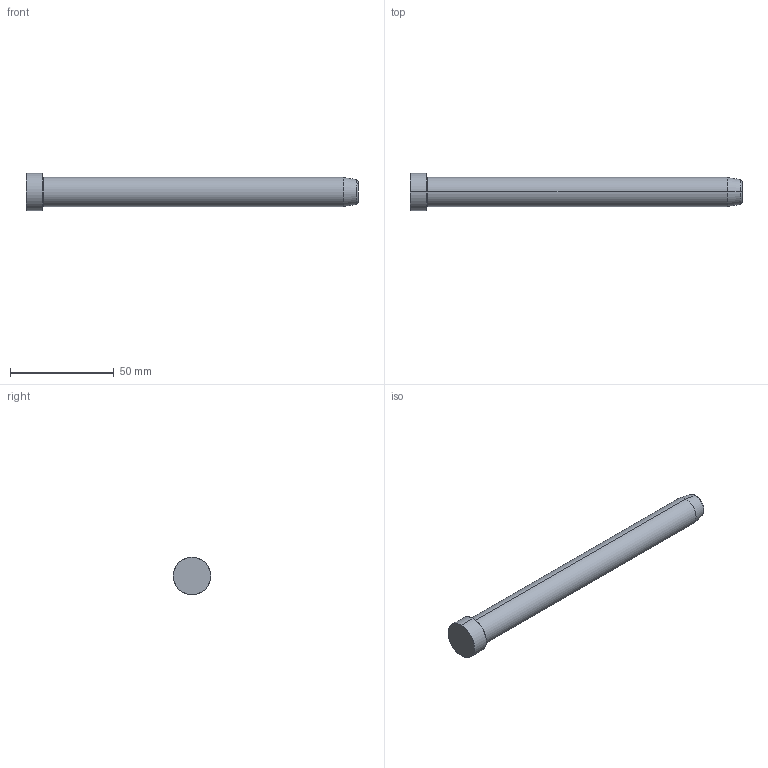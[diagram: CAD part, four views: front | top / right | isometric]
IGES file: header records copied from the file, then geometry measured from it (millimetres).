
Start section: SolidWorks IGES FILE using analytic representation for surfaces
Global section: file name: D:\zzzzz\Delta\D01 D\14\D01 D - 14x160.IGS; native system: SolidWorks 2004 by SolidWorks Corporation; preprocessor: Version 5.3; author: Hkn; date: 080326.194028; units: millimetre
Bounding box: 160 x 18 x 18 mm (x, y, z)
Surface area: 7584.6 mm2 (no closed solid volume)
Topology: 0 solids, 0 shells, 14 faces, 232 edges, 232 vertices
Faces by surface type: revolution 8, bspline 6
